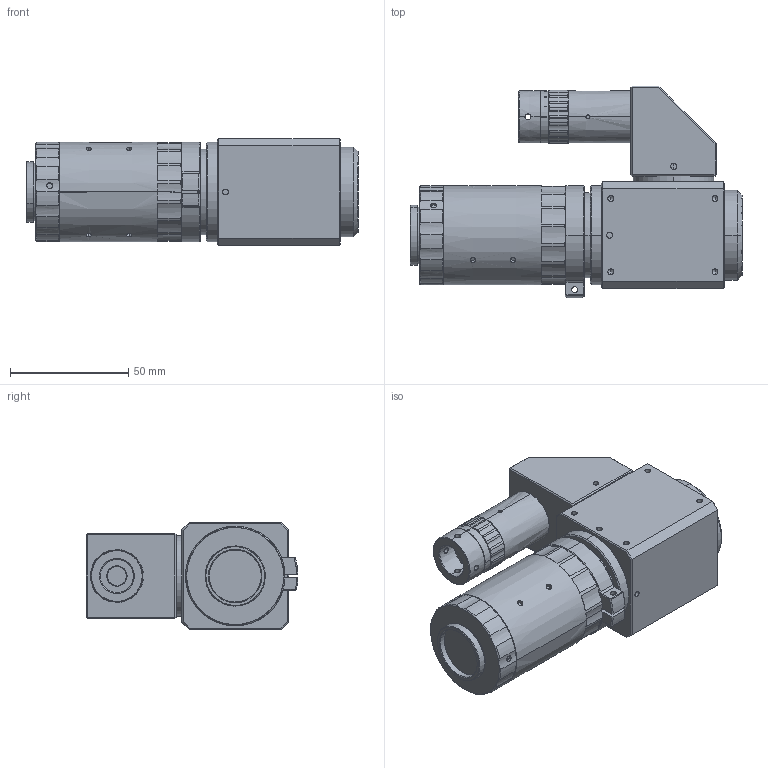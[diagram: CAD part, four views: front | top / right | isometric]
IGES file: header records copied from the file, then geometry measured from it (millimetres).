
Start section: SolidWorks IGES file using analytic representation for surfaces
Global section: file name: C:\Users\gc\Desktop\未完成工作堆放区\067\发客户3D\TUL200-067CL-110.IGS; native system: SolidWorks 2017; preprocessor: SolidWorks 2017; author: gc; date: 231106.142624; units: millimetre
Bounding box: 140.21 x 89.49 x 45 mm (x, y, z)
Surface area: 44315.9 mm2 (no closed solid volume)
Topology: 0 solids, 0 shells, 887 faces, 12097 edges, 12073 vertices
Faces by surface type: revolution 582, bspline 305
